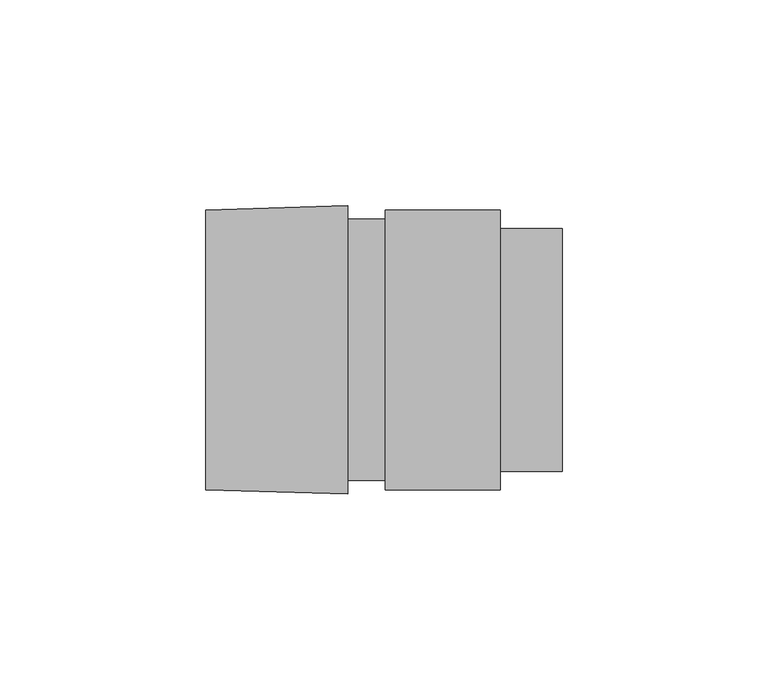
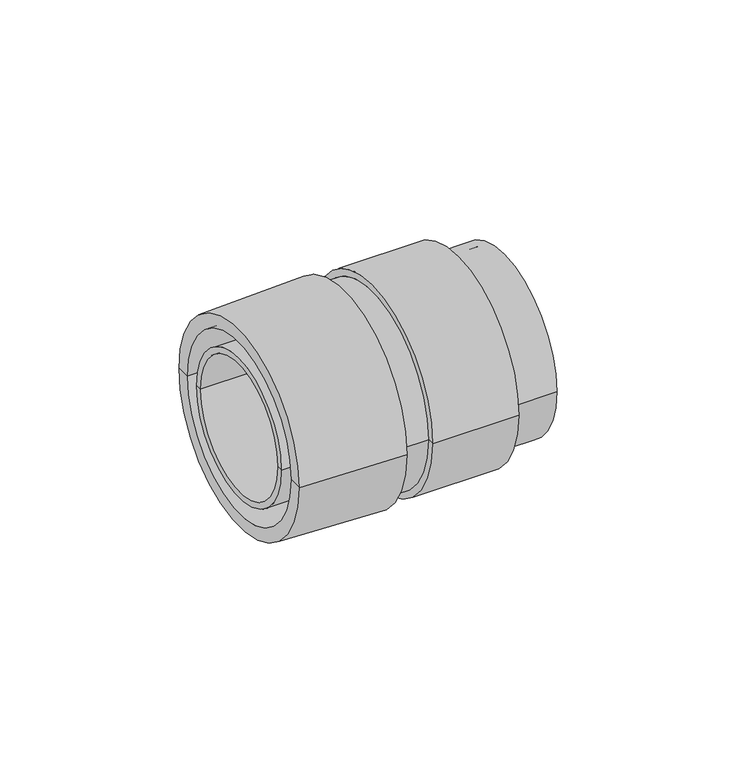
"""IFC4 building model written with IfcOpenShell, lengths in millimetres: cable carrier fitting geometry, КНС_ПереходникАрмированнаяТрубаКоробка_IP65_DKC : Коробка."""

import ifcopenshell
import ifcopenshell.guid

model = None  # the IFC model being written
_history = None  # IfcOwnerHistory: only IFC2X3 demands one
_inside = {}  # id of a spatial element -> (the spatial element, [elements in it])
_under = {}  # id of a project, library or spatial element -> (it, [spatial elements below it])
_declared = {}  # id of a project -> (the project, [libraries it declares])
_typed = {}  # id of a type object -> (the type object, [elements of that type])
_made_of = {}  # id of a material, layer set ... -> (it, [elements and type objects made of it])


def new_model(schema):
    """Start an empty IFC model of exactly this schema.

    Asked for "IFC4X3", IfcOpenShell would pick the latest addendum, in which some entities
    have other attributes; the version numbers below select the first issue.
    IFC2X3 requires an IfcOwnerHistory on every rooted entity: one is made here for all.
    """
    global model, _history
    if schema == "IFC4X3":
        model = ifcopenshell.file(schema_version=(4, 3, 0, 0))
    else:
        model = ifcopenshell.file(schema=schema)
    _inside.clear()
    _under.clear()
    _declared.clear()
    _typed.clear()
    _made_of.clear()
    _history = None
    if model.schema == "IFC2X3":
        org = make("IfcOrganization", Name="unknown")
        user = make(
            "IfcPersonAndOrganization",
            ThePerson=make("IfcPerson", FamilyName="unknown"),
            TheOrganization=org,
        )
        app = make(
            "IfcApplication",
            ApplicationDeveloper=org,
            Version="unknown",
            ApplicationFullName="unknown",
            ApplicationIdentifier="unknown",
        )
        _history = make(
            "IfcOwnerHistory",
            OwningUser=user,
            OwningApplication=app,
            ChangeAction="ADDED",
            CreationDate=0,
        )
    return model


def make(cls, **values):
    """One entity of the class cls with the attributes given. An attribute that is None is left unset."""
    return model.create_entity(
        cls, **{name: value for name, value in values.items() if value is not None}
    )


def rooted(cls, **values):
    """An entity with a GlobalId (a new one), such as an element, a storey or a relation."""
    return make(cls, GlobalId=ifcopenshell.guid.new(), OwnerHistory=_history, **values)


def si_unit(unit_type, name, prefix=None):
    """IfcSIUnit, for example si_unit("LENGTHUNIT", "METRE", prefix="MILLI")."""
    return make("IfcSIUnit", UnitType=unit_type, Prefix=prefix, Name=name)


def assignment(units):
    """IfcUnitAssignment: the units of a project."""
    return None if units is None else make("IfcUnitAssignment", Units=units)


def point(xyz):
    """IfcCartesianPoint."""
    return None if xyz is None else make("IfcCartesianPoint", Coordinates=xyz)


def direction(xyz):
    """IfcDirection."""
    return None if xyz is None else make("IfcDirection", DirectionRatios=xyz)


def frame(location, z_axis=None, x_axis=None):
    """IfcAxis2Placement3D, a coordinate frame: its origin and axes. An axis left out is left unset."""
    return make(
        "IfcAxis2Placement3D",
        Location=point(location),
        Axis=direction(z_axis),
        RefDirection=direction(x_axis),
    )


def origin():
    """The frame at (0, 0, 0) with its axes left unset."""
    return frame((0.0, 0.0, 0.0))


def place(relative_to, where):
    """IfcLocalPlacement: puts the frame where relative to a parent placement (None: the world)."""
    return make(
        "IfcLocalPlacement", PlacementRelTo=relative_to, RelativePlacement=where
    )


def context(
    kind, dimensions, precision=None, world=None, true_north=None, identifier=None
):
    """IfcGeometricRepresentationContext, for example the 3D "Model" context."""
    return make(
        "IfcGeometricRepresentationContext",
        ContextIdentifier=identifier,
        ContextType=kind,
        CoordinateSpaceDimension=dimensions,
        Precision=precision,
        WorldCoordinateSystem=world,
        TrueNorth=true_north,
    )


def project(units=None, contexts=None):
    """IfcProject with its units and contexts."""
    return rooted(
        "IfcProject",
        Name="project",
        RepresentationContexts=contexts,
        UnitsInContext=assignment(units),
    )


def spatial(cls, under=None, at=None, **own):
    """A site, building, storey or space (cls), placed at a placement, below another one or the project."""
    s = rooted(cls, ObjectPlacement=at, **own)
    if under is not None:
        _under.setdefault(under.id(), (under, []))[1].append(s)
    return s


def polyline(points):
    """IfcPolyline through the points."""
    return make("IfcPolyline", Points=[point(p) for p in points])


def circle_curve(where, radius):
    """IfcCircle in the frame where."""
    return make("IfcCircle", Position=where, Radius=radius)


def shape(context_of_items, identifier, shape_type, items):
    """IfcShapeRepresentation: the items that make up one representation, for example the "Body"."""
    return make(
        "IfcShapeRepresentation",
        ContextOfItems=context_of_items,
        RepresentationIdentifier=identifier,
        RepresentationType=shape_type,
        Items=items,
    )


def source(mapping_origin, context_of_items, identifier, shape_type, items):
    """IfcRepresentationMap: a shape defined once, which mapped items show again and again."""
    return make(
        "IfcRepresentationMap",
        MappingOrigin=mapping_origin,
        MappedRepresentation=shape(context_of_items, identifier, shape_type, items),
    )


def transform(
    local_origin,
    x_axis=None,
    y_axis=None,
    z_axis=None,
    scale=None,
    scale2=None,
    scale3=None,
    uniform=True,
):
    """IfcCartesianTransformationOperator3D, or its non-uniform kind. x_axis, y_axis, z_axis: its Axis1, 2, 3."""
    if uniform:
        return make(
            "IfcCartesianTransformationOperator3D",
            Axis1=direction(x_axis),
            Axis2=direction(y_axis),
            LocalOrigin=point(local_origin),
            Scale=scale,
            Axis3=direction(z_axis),
        )
    return make(
        "IfcCartesianTransformationOperator3DnonUniform",
        Axis1=direction(x_axis),
        Axis2=direction(y_axis),
        LocalOrigin=point(local_origin),
        Scale=scale,
        Axis3=direction(z_axis),
        Scale2=scale2,
        Scale3=scale3,
    )


def mapped(mapping_source, mapping_target):
    """IfcMappedItem: shows the shape of a source again, moved by a transform."""
    return make(
        "IfcMappedItem", MappingSource=mapping_source, MappingTarget=mapping_target
    )


def made_of(thing, what):
    """Note that an element or type object is made of a material, layer set ...; save() writes the relation."""
    if what is not None:
        _made_of.setdefault(what.id(), (what, []))[1].append(thing)
    return thing


def element(
    cls,
    number,
    at=None,
    inside=None,
    cuts=None,
    type_object=None,
    material=None,
    context=None,
    identifier="Body",
    shape_type=None,
    held_by="IfcProductDefinitionShape",
    body=None,
    shapes=None,
    **own,
):
    """One element of the class cls, such as IfcWall. Its Tag is "e" and its number.

    at: its placement. inside: the storey or other place that contains it. cuts: it is an
    opening in that element (IfcRelVoidsElement). A single representation is given by context,
    identifier, shape_type and body (its items); several are given by shapes. held_by: the class
    of the entity that holds the representations. save() writes the other relations.
    """
    e = rooted(cls, Tag="e%d" % number, ObjectPlacement=at, **own)
    if body is not None:
        shapes = [shape(context, identifier, shape_type, body)]
    if shapes is not None:
        e.Representation = make(held_by, Representations=shapes)
    if inside is not None:
        _inside.setdefault(inside.id(), (inside, []))[1].append(e)
    if cuts is not None:
        rooted(
            "IfcRelVoidsElement", RelatingBuildingElement=cuts, RelatedOpeningElement=e
        )
    if type_object is not None:
        _typed.setdefault(type_object.id(), (type_object, []))[1].append(e)
    return made_of(e, material)


def aggregate(whole, parts):
    """IfcRelAggregates: a whole, such as a stair, and the parts it consists of."""
    return rooted("IfcRelAggregates", RelatingObject=whole, RelatedObjects=parts)


def save(model, path):
    """Write the relations noted so far, then the file.

    IfcRelAggregates (storeys below a building ...), IfcRelContainedInSpatialStructure (elements
    in a storey), IfcRelDefinesByType, IfcRelAssociatesMaterial and IfcRelDeclares: one each for
    every whole, place, type object, material and project.
    """
    for whole, parts in _under.values():
        aggregate(whole, parts)
    for where, things in _inside.values():
        rooted(
            "IfcRelContainedInSpatialStructure",
            RelatedElements=things,
            RelatingStructure=where,
        )
    for kind, things in _typed.values():
        rooted("IfcRelDefinesByType", RelatedObjects=things, RelatingType=kind)
    for what, things in _made_of.values():
        rooted("IfcRelAssociatesMaterial", RelatedObjects=things, RelatingMaterial=what)
    for by, libraries in _declared.values():
        rooted("IfcRelDeclares", RelatingContext=by, RelatedDefinitions=libraries)
    model.write(path)


def plane_surface(at):
    """IfcPlane: the flat surface through the origin of the frame at, square to its z axis."""
    return make("IfcPlane", Position=at)


def cylinder_surface(at, radius):
    """IfcCylindricalSurface: all points at the distance radius from the z axis of the frame at."""
    return make("IfcCylindricalSurface", Position=at, Radius=radius)


def revolved_surface(curve, axis_point, axis_direction):
    """IfcSurfaceOfRevolution: the curve turned about the line through axis_point along axis_direction."""
    return make(
        "IfcSurfaceOfRevolution",
        SweptCurve=make("IfcArbitraryOpenProfileDef", ProfileType="CURVE", Curve=curve),
        AxisPosition=make("IfcAxis1Placement", Location=point(axis_point), Axis=direction(axis_direction)),
    )


def advanced_brep(points, edges, surfaces, faces):
    """IfcAdvancedBrep: a solid bounded by faces that lie on surfaces and meet in shared edges.

    An edge is (start, end): straight between two places in points (the first is 0);
    or (start, end, curve); or (start, end, curve, False) where it runs against its curve.
    A face is (place in surfaces, loops), or (place, loops, False) where it looks against
    its surface's normal. A loop lists edges by number (the first is 1), with a minus sign
    where the edge is run from its end to its start. The first loop is the outer one.
    """
    corners = [point(p) for p in points]
    vertices = [make("IfcVertexPoint", VertexGeometry=c) for c in corners]
    made = []
    for start, end, *more in edges:
        made.append(
            make(
                "IfcEdgeCurve",
                EdgeStart=vertices[start],
                EdgeEnd=vertices[end],
                EdgeGeometry=more[0] if more else make("IfcPolyline", Points=[corners[start], corners[end]]),
                SameSense=more[1] if len(more) > 1 else True,
            )
        )
    hull = []
    for where, loops, *sense in faces:
        bounds = []
        for j, loop in enumerate(loops):
            ring = [make("IfcOrientedEdge", EdgeElement=made[abs(k) - 1], Orientation=k > 0) for k in loop]
            bounds.append(
                make(
                    "IfcFaceOuterBound" if j == 0 else "IfcFaceBound",
                    Bound=make("IfcEdgeLoop", EdgeList=ring),
                    Orientation=True,
                )
            )
        hull.append(make("IfcAdvancedFace", Bounds=bounds, FaceSurface=surfaces[where], SameSense=sense[0] if sense else True))
    return make("IfcAdvancedBrep", Outer=make("IfcClosedShell", CfsFaces=hull))


def cable_carrier_fitting_104c7cc9(model_context):
    return source(origin(), model_context, "Body", "AdvancedBrep", [
        advanced_brep(
        [(52.0, -27.4353846, 0.0), (52.0, 27.4353846, 0.0), (0.0, 27.4353846, 0.0), (0.0, -27.4353846, 0.0), (52.0, -29.5, 0.0), (52.0, 29.5, 0.0), (37.0, -29.5, 0.0), (37.0, 29.5, 0.0), (37.0, -34.0, 0.0), (37.0, 34.0, 0.0), (9.0, -34.0, 0.0), (9.0, 34.0, 0.0), (9.0, -31.75, 0.0), (9.0, 31.75, 0.0), (0.0, -31.75, 0.0), (0.0, 31.75, 0.0)],
        [
            (0, 1, circle_curve(frame((52.0, 0.0, 0.0), z_axis=(1.0, 0.0, 0.0), x_axis=(0.0, 1.0, 0.0)), 27.4353846)),
            (1, 2),
            (2, 3, circle_curve(frame((0.0, 0.0, 0.0), z_axis=(-1.0, 0.0, 0.0), x_axis=(0.0, 1.0, 0.0)), 27.4353846)),
            (3, 0),
            (1, 0, circle_curve(frame((52.0, 0.0, 0.0), z_axis=(1.0, 0.0, 0.0), x_axis=(0.0, 1.0, 0.0)), 27.4353846)),
            (3, 2, circle_curve(frame((0.0, 0.0, 0.0), z_axis=(-1.0, 0.0, 0.0), x_axis=(0.0, 1.0, 0.0)), 27.4353846)),
            (4, 5, circle_curve(frame((52.0, 0.0, 0.0), z_axis=(1.0, 0.0, 0.0), x_axis=(0.0, 1.0, 0.0)), 29.5)),
            (5, 1),
            (0, 4),
            (5, 4, circle_curve(frame((52.0, 0.0, 0.0), z_axis=(1.0, 0.0, 0.0), x_axis=(0.0, 1.0, 0.0)), 29.5)),
            (6, 7, circle_curve(frame((37.0, 0.0, 0.0), z_axis=(1.0, 0.0, 0.0), x_axis=(0.0, 1.0, 0.0)), 29.5)),
            (7, 5),
            (4, 6),
            (7, 6, circle_curve(frame((37.0, 0.0, 0.0), z_axis=(1.0, 0.0, 0.0), x_axis=(0.0, 1.0, 0.0)), 29.5)),
            (8, 9, circle_curve(frame((37.0, 0.0, 0.0), z_axis=(1.0, 0.0, 0.0), x_axis=(0.0, 1.0, 0.0)), 34.0)),
            (9, 7),
            (6, 8),
            (9, 8, circle_curve(frame((37.0, 0.0, 0.0), z_axis=(1.0, 0.0, 0.0), x_axis=(0.0, 1.0, 0.0)), 34.0)),
            (10, 11, circle_curve(frame((9.0, 0.0, 0.0), z_axis=(1.0, 0.0, 0.0), x_axis=(0.0, 1.0, 0.0)), 34.0)),
            (11, 9),
            (8, 10),
            (11, 10, circle_curve(frame((9.0, 0.0, 0.0), z_axis=(1.0, 0.0, 0.0), x_axis=(0.0, 1.0, 0.0)), 34.0)),
            (12, 13, circle_curve(frame((9.0, 0.0, 0.0), z_axis=(1.0, 0.0, 0.0), x_axis=(0.0, 1.0, 0.0)), 31.75)),
            (13, 11),
            (10, 12),
            (13, 12, circle_curve(frame((9.0, 0.0, 0.0), z_axis=(1.0, 0.0, 0.0), x_axis=(0.0, 1.0, 0.0)), 31.75)),
            (14, 15, circle_curve(frame((0.0, 0.0, 0.0), z_axis=(1.0, 0.0, 0.0), x_axis=(0.0, 1.0, 0.0)), 31.75)),
            (15, 13),
            (12, 14),
            (15, 14, circle_curve(frame((0.0, 0.0, 0.0), z_axis=(1.0, 0.0, 0.0), x_axis=(0.0, 1.0, 0.0)), 31.75)),
            (2, 15),
            (14, 3),
        ],
        [
            revolved_surface(polyline([(0.0, 27.4353846, 0.0), (52.0, 27.4353846, 0.0)]), (1540.5, 0.0, 0.0), (-1.0, 0.0, 0.0)),
            plane_surface(frame((52.0, 0.0, 0.0), z_axis=(1.0, 0.0, 0.0), x_axis=(0.0, 1.0, 0.0))),
            cylinder_surface(frame((1540.5, 0.0, 0.0), z_axis=(-1.0, 0.0, 0.0), x_axis=(0.0, 1.0, 0.0)), 29.5),
            plane_surface(frame((37.0, 0.0, 0.0), z_axis=(1.0, 0.0, 0.0), x_axis=(0.0, 1.0, 0.0))),
            cylinder_surface(frame((1540.5, 0.0, 0.0), z_axis=(-1.0, 0.0, 0.0), x_axis=(0.0, 1.0, 0.0)), 34.0),
            plane_surface(frame((9.0, 0.0, 0.0), z_axis=(-1.0, 0.0, 0.0), x_axis=(0.0, 1.0, 0.0))),
            cylinder_surface(frame((1540.5, 0.0, 0.0), z_axis=(-1.0, 0.0, 0.0), x_axis=(0.0, 1.0, 0.0)), 31.75),
            plane_surface(frame((0.0, 0.0, 0.0), z_axis=(-1.0, 0.0, 0.0), x_axis=(0.0, 1.0, 0.0))),
        ],
        [
            (0, [[1, 2, 3, 4]]),
            (0, [[5, -4, 6, -2]]),
            (1, [[7, 8, -1, 9]]),
            (1, [[10, -9, -5, -8]]),
            (2, [[11, 12, -7, 13]]),
            (2, [[14, -13, -10, -12]]),
            (3, [[15, 16, -11, 17]]),
            (3, [[18, -17, -14, -16]]),
            (4, [[19, 20, -15, 21]]),
            (4, [[22, -21, -18, -20]]),
            (5, [[23, 24, -19, 25]]),
            (5, [[26, -25, -22, -24]]),
            (6, [[27, 28, -23, 29]]),
            (6, [[30, -29, -26, -28]]),
            (7, [[-3, 31, -27, 32]]),
            (7, [[-6, -32, -30, -31]]),
        ],
    ),
        advanced_brep(
        [(0.0, -35.0, 0.0), (0.0, 35.0, 0.0), (0.0, 29.5, 0.0), (0.0, -29.5, 0.0), (-34.5, -34.0, 0.0), (-34.5, 34.0, 0.0), (-34.5, -29.5, 0.0), (-34.5, 29.5, 0.0)],
        [
            (0, 1, circle_curve(frame((0.0, 0.0, 0.0), z_axis=(1.0, 0.0, 0.0), x_axis=(0.0, 1.0, 0.0)), 35.0)),
            (1, 2),
            (2, 3, circle_curve(frame((0.0, 0.0, 0.0), z_axis=(-1.0, 0.0, 0.0), x_axis=(0.0, 1.0, 0.0)), 29.5)),
            (3, 0),
            (1, 0, circle_curve(frame((0.0, 0.0, 0.0), z_axis=(1.0, 0.0, 0.0), x_axis=(0.0, 1.0, 0.0)), 35.0)),
            (3, 2, circle_curve(frame((0.0, 0.0, 0.0), z_axis=(-1.0, 0.0, 0.0), x_axis=(0.0, 1.0, 0.0)), 29.5)),
            (4, 5, circle_curve(frame((-34.5, 0.0, 0.0), z_axis=(1.0, 0.0, 0.0), x_axis=(0.0, 1.0, 0.0)), 34.0)),
            (5, 1),
            (0, 4),
            (5, 4, circle_curve(frame((-34.5, 0.0, 0.0), z_axis=(1.0, 0.0, 0.0), x_axis=(0.0, 1.0, 0.0)), 34.0)),
            (6, 7, circle_curve(frame((-34.5, 0.0, 0.0), z_axis=(1.0, 0.0, 0.0), x_axis=(0.0, 1.0, 0.0)), 29.5)),
            (7, 5),
            (4, 6),
            (7, 6, circle_curve(frame((-34.5, 0.0, 0.0), z_axis=(1.0, 0.0, 0.0), x_axis=(0.0, 1.0, 0.0)), 29.5)),
            (2, 7),
            (6, 3),
        ],
        [
            plane_surface(frame((0.0, 0.0, 0.0), z_axis=(1.0, 0.0, 0.0), x_axis=(0.0, 1.0, 0.0))),
            revolved_surface(polyline([(0.0, 35.0, 0.0), (-34.5, 34.0, 0.0)]), (1540.5, 0.0, 0.0), (-1.0, 0.0, 0.0)),
            plane_surface(frame((-34.5, 0.0, 0.0), z_axis=(-1.0, 0.0, 0.0), x_axis=(0.0, 1.0, 0.0))),
            revolved_surface(polyline([(-34.5, 29.5, 0.0), (0.0, 29.5, 0.0)]), (1540.5, 0.0, 0.0), (-1.0, 0.0, 0.0)),
        ],
        [
            (0, [[1, 2, 3, 4]]),
            (0, [[5, -4, 6, -2]]),
            (1, [[7, 8, -1, 9]]),
            (1, [[10, -9, -5, -8]]),
            (2, [[11, 12, -7, 13]]),
            (2, [[14, -13, -10, -12]]),
            (3, [[-3, 15, -11, 16]]),
            (3, [[-6, -16, -14, -15]]),
        ],
    ),
        advanced_brep(
        [(-34.5, -24.0, 0.0), (-34.5, 24.0, 0.0), (0.0, 24.0, 0.0), (0.0, -24.0, 0.0), (-34.5, -22.0, 0.0), (-34.5, 22.0, 0.0), (0.0, -22.0, 0.0), (0.0, 22.0, 0.0)],
        [
            (0, 1, circle_curve(frame((-34.5, 0.0, 0.0), z_axis=(1.0, 0.0, 0.0), x_axis=(0.0, 1.0, 0.0)), 24.0)),
            (1, 2),
            (2, 3, circle_curve(frame((0.0, 0.0, 0.0), z_axis=(-1.0, 0.0, 0.0), x_axis=(0.0, 1.0, 0.0)), 24.0)),
            (3, 0),
            (1, 0, circle_curve(frame((-34.5, 0.0, 0.0), z_axis=(1.0, 0.0, 0.0), x_axis=(0.0, 1.0, 0.0)), 24.0)),
            (3, 2, circle_curve(frame((0.0, 0.0, 0.0), z_axis=(-1.0, 0.0, 0.0), x_axis=(0.0, 1.0, 0.0)), 24.0)),
            (4, 5, circle_curve(frame((-34.5, 0.0, 0.0), z_axis=(1.0, 0.0, 0.0), x_axis=(0.0, 1.0, 0.0)), 22.0)),
            (5, 1),
            (0, 4),
            (5, 4, circle_curve(frame((-34.5, 0.0, 0.0), z_axis=(1.0, 0.0, 0.0), x_axis=(0.0, 1.0, 0.0)), 22.0)),
            (6, 7, circle_curve(frame((0.0, 0.0, 0.0), z_axis=(1.0, 0.0, 0.0), x_axis=(0.0, 1.0, 0.0)), 22.0)),
            (7, 5),
            (4, 6),
            (7, 6, circle_curve(frame((0.0, 0.0, 0.0), z_axis=(1.0, 0.0, 0.0), x_axis=(0.0, 1.0, 0.0)), 22.0)),
            (2, 7),
            (6, 3),
        ],
        [
            cylinder_surface(frame((1540.5, 0.0, 0.0), z_axis=(-1.0, 0.0, 0.0), x_axis=(0.0, 1.0, 0.0)), 24.0),
            plane_surface(frame((-34.5, 0.0, 0.0), z_axis=(-1.0, 0.0, 0.0), x_axis=(0.0, 1.0, 0.0))),
            revolved_surface(polyline([(-34.5, 22.0, 0.0), (0.0, 22.0, 0.0)]), (1540.5, 0.0, 0.0), (-1.0, 0.0, 0.0)),
            plane_surface(frame((0.0, 0.0, 0.0), z_axis=(1.0, 0.0, 0.0), x_axis=(0.0, 1.0, 0.0))),
        ],
        [
            (0, [[1, 2, 3, 4]]),
            (0, [[5, -4, 6, -2]]),
            (1, [[7, 8, -1, 9]]),
            (1, [[10, -9, -5, -8]]),
            (2, [[11, 12, -7, 13]]),
            (2, [[14, -13, -10, -12]]),
            (3, [[-3, 15, -11, 16]]),
            (3, [[-6, -16, -14, -15]]),
        ],
    ),
    ])


if __name__ == "__main__":
    model = new_model("IFC4")
    model_context = context("Model", 3, world=origin())
    ifc_project = project(units=[si_unit("LENGTHUNIT", "METRE", prefix="MILLI")], contexts=[model_context])
    site = spatial("IfcSite", under=ifc_project)
    building = spatial("IfcBuilding", under=site)
    placement = place(None, origin())
    cable_carrier_fitting_shape = cable_carrier_fitting_104c7cc9(model_context)
    element("IfcCableCarrierFitting", 1, ObjectType="КНС_ПереходникАрмированнаяТрубаКоробка_IP65_DKC : Коробка", at=placement, inside=building, context=model_context, shape_type="MappedRepresentation", body=[
        mapped(cable_carrier_fitting_shape, transform((0.0, 0.0, 0.0), x_axis=(1.0, 0.0, 0.0), y_axis=(0.0, 1.0, 0.0), z_axis=(0.0, 0.0, 1.0))),
    ])
    save(model, "model.ifc")
